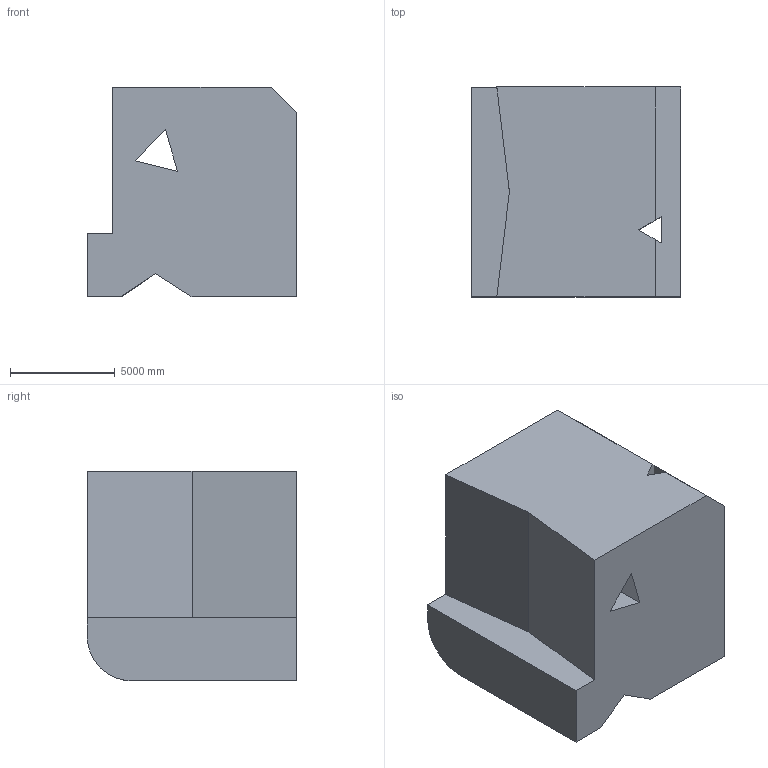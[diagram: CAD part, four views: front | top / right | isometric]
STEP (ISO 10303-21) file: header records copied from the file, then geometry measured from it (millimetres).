
FILE_DESCRIPTION (( 'STEP AP203' ), '1' );
FILE_NAME ('1720.STEP', '2022-08-26T14:09:56', ( 'user' ), ( '' ), 'SwSTEP 2.0', 'SolidWorks 2021', '' );
FILE_SCHEMA (( 'CONFIG_CONTROL_DESIGN' ));
Length unit declared in the file: centimetre
Products named in the file (1): 1720
Bounding box: 10000 x 10000 x 10000 mm (x, y, z)
Volume: 828473894883.7 mm3; surface area: 696438270.4 mm2
Topology: 1 solids, 1 shells, 28 faces, 81 edges, 54 vertices
Faces by surface type: plane 27, cylinder 1
Entity records: 996 total; most frequent: CARTESIAN_POINT 170, ORIENTED_EDGE 162, DIRECTION 139, EDGE_CURVE 81, LINE 77, VECTOR 77, VERTEX_POINT 54, EDGE_LOOP 33
